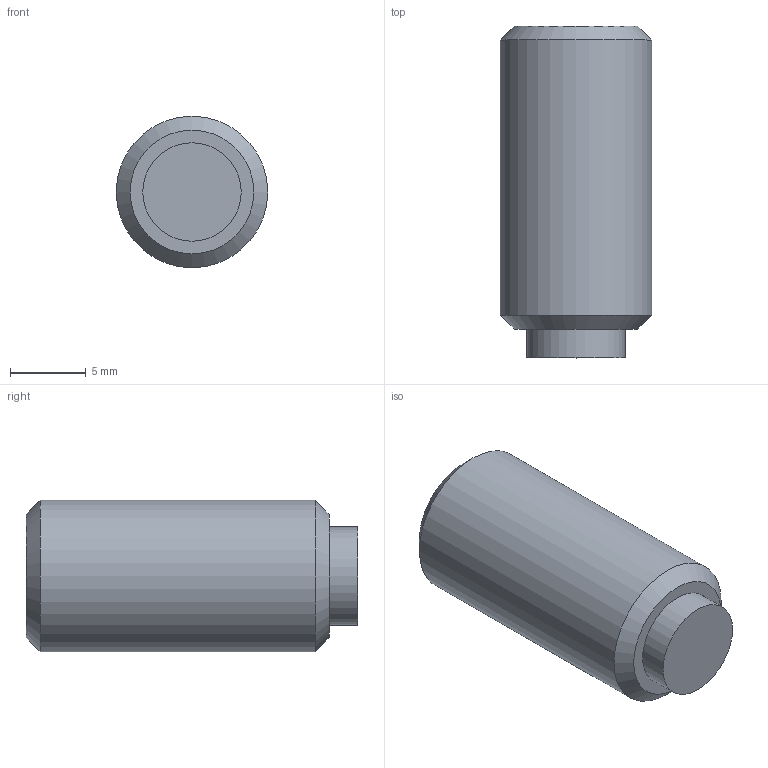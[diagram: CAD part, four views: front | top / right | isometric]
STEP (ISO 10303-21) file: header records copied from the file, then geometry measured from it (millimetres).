
FILE_DESCRIPTION( ( 'STEP AP203' ), '1' );
FILE_NAME( 'C:/Temp/Ganter_Step_05_03_2020/data/3_2/gn913_3/Grub screw GN 913.3-M10-20-KU.stp', '2020-03-13T05:35:39', ( 'License CC BY-ND 4.0' ), ( 'CADENAS' ), ' ', 'PARTsolutions', ' ' );
FILE_SCHEMA( ( 'CONFIG_CONTROL_DESIGN' ) );
Length unit declared in the file: millimetre
Products named in the file (1): _Grub screw GN 913.3-M10-20-KU
Bounding box: 10 x 21.9 x 10 mm (x, y, z)
Volume: 1479 mm3; surface area: 892.1 mm2
Topology: 1 solids, 1 shells, 14 faces, 28 edges, 18 vertices
Faces by surface type: plane 10, cylinder 2, cone 2
Full cylindrical faces by diameter (mm): 6.5 x1, 10 x1
Entity records: 386 total; most frequent: DIRECTION 60, CARTESIAN_POINT 57, ORIENTED_EDGE 48, EDGE_CURVE 24, AXIS2_PLACEMENT_3D 21, EDGE_LOOP 20, VERTEX_POINT 18, LINE 18
